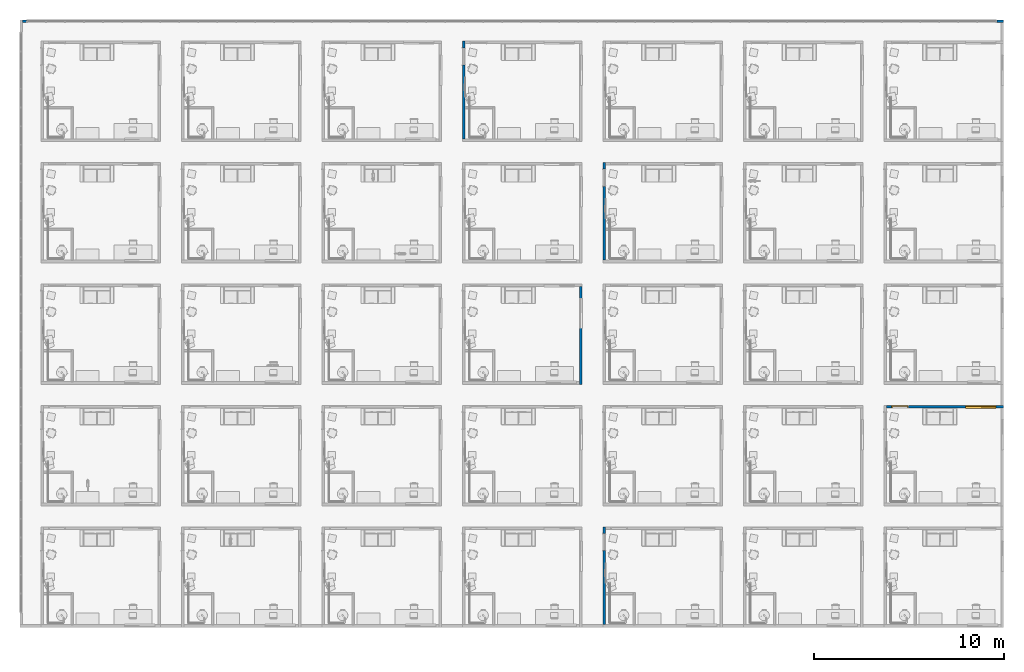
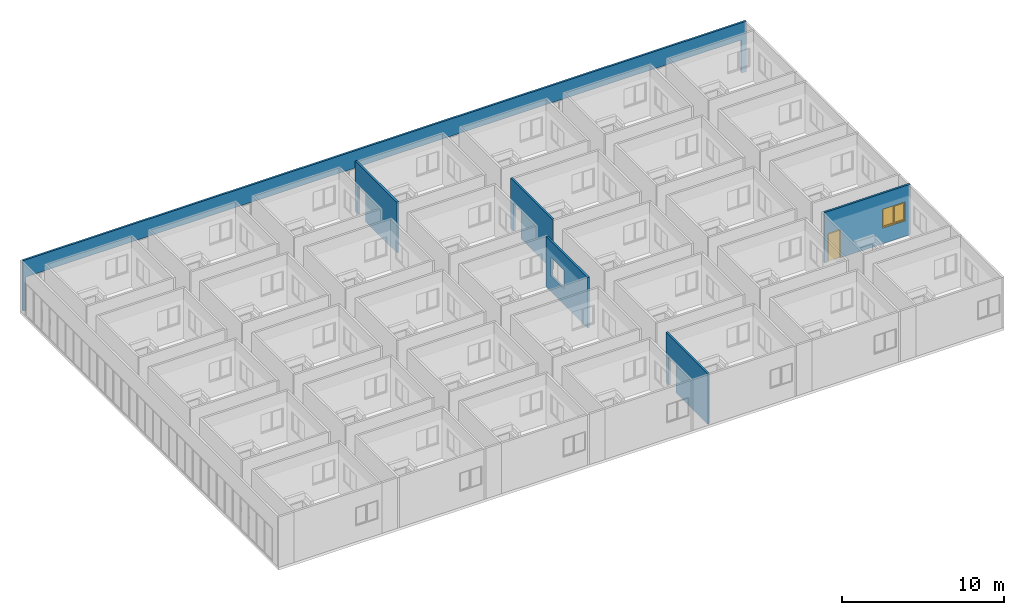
# One storey, part 12 of 71: 6 walls, 1 door, 1 window, 7 openings.
"""IFC4 building model written with IfcOpenShell, lengths in centimetres."""

from ifc_helpers import new_model, entity, si_unit, converted_unit, derived_unit, direction, frame, origin, place, context, subcontext, project, spatial, indexed_curve, outline, extrude, polygons, source, transform, mapped, material, constituent, constituent_set, type_object, type_shapes, element, fill, save


model = new_model("IFC4")

# Units and contexts
model_context = context("Model", 3, precision=0.001, world=origin(), true_north=direction((6.123233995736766e-17, 1.0)))
body_context = subcontext(model_context, "Body", "Model", "MODEL_VIEW")
ifc_project = project(units=[si_unit("LENGTHUNIT", "METRE", prefix="CENTI"), si_unit("AREAUNIT", "SQUARE_METRE"), si_unit("VOLUMEUNIT", "CUBIC_METRE"), derived_unit("THERMALTRANSMITTANCEUNIT", [(si_unit("MASSUNIT", "GRAM", prefix="KILO"), 1), (si_unit("THERMODYNAMICTEMPERATUREUNIT", "KELVIN"), -1), (si_unit("TIMEUNIT", "SECOND"), -3)]), converted_unit("PLANEANGLEUNIT", "DEGREE", entity("IfcPlaneAngleMeasure", 0.017453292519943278), si_unit("PLANEANGLEUNIT", "RADIAN"), dimensions=[0, 0, 0, 0, 0, 0, 0]), derived_unit("MASSDENSITYUNIT", [(si_unit("MASSUNIT", "GRAM", prefix="KILO"), 1), (si_unit("LENGTHUNIT", "METRE"), -3)]), derived_unit("VAPORPERMEABILITYUNIT", [(si_unit("LENGTHUNIT", "METRE"), -1), (si_unit("TIMEUNIT", "SECOND"), 1)]), derived_unit("USERDEFINED", [(si_unit("MASSUNIT", "GRAM", prefix="KILO"), 1), (si_unit("TIMEUNIT", "SECOND"), -3), (si_unit("LENGTHUNIT", "METRE"), 3), (si_unit("ELECTRICCURRENTUNIT", "AMPERE"), -2)]), derived_unit("SPECIFICHEATCAPACITYUNIT", [(si_unit("THERMODYNAMICTEMPERATUREUNIT", "KELVIN"), -1), (si_unit("LENGTHUNIT", "METRE"), 2), (si_unit("TIMEUNIT", "SECOND"), -2)]), derived_unit("THERMALCONDUCTANCEUNIT", [(si_unit("MASSUNIT", "GRAM", prefix="KILO"), 1), (si_unit("THERMODYNAMICTEMPERATUREUNIT", "KELVIN"), -1), (si_unit("TIMEUNIT", "SECOND"), -3), (si_unit("LENGTHUNIT", "METRE"), 1)]), si_unit("PRESSUREUNIT", "PASCAL"), derived_unit("MODULUSOFELASTICITYUNIT", [(si_unit("MASSUNIT", "GRAM", prefix="KILO"), 1), (si_unit("LENGTHUNIT", "METRE"), -1), (si_unit("TIMEUNIT", "SECOND"), -2)]), derived_unit("THERMALEXPANSIONCOEFFICIENTUNIT", [(si_unit("THERMODYNAMICTEMPERATUREUNIT", "KELVIN"), -1)])], contexts=[model_context])

# Site, building, storey
site_placement = place(None, origin())
site = spatial("IfcSite", under=ifc_project, at=site_placement, Name="Default", CompositionType="ELEMENT")
building_placement = place(site_placement, origin())
building = spatial("IfcBuilding", under=site, at=building_placement, Name="IDS Escape Game Building", CompositionType="ELEMENT")
storey_placement = place(building_placement, frame((0.0, 0.0, 1200.0)))
storey = spatial("IfcBuildingStorey", under=building, at=storey_placement, Name="03_Third Floor", CompositionType="ELEMENT", Elevation=1200.0)

# Wall, opening
ifc_material_1 = material(Name="ARC_FME.g2_Fg2 Masonry_00_gen_BERSnl", Category="g - klei")
wall_type = type_object("IfcWallType", Name="Basic Wall:ARC_22.10_WA_LB_SB14_gen_BERSnl", PredefinedType="STANDARD")
wall_1_placement = place(storey_placement, frame((2952.0, 527.0, 0.0), z_axis=(0.0, 0.0, 1.0), x_axis=(0.0, -1.0, 0.0)))
wall_1 = element("IfcWall", 1, at=wall_1_placement, inside=storey, type_object=wall_type, material=ifc_material_1, Name="Basic Wall:ARC_22.10_WA_LB_SB14_gen_BERSnl", ObjectType="Basic Wall:ARC_22.10_WA_LB_SB14_gen_BERSnl", PredefinedType="NOTDEFINED", context=body_context, shape_type="Tessellation", body=[
    polygons([(513.9999999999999, -6.999999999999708, 380.0), (0.0, -6.999999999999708, 380.0), (0.0, -6.999999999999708, 0.0), (35.99999999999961, -6.999999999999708, 0.0), (35.99999999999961, -6.999999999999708, 215.00000000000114), (125.99999999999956, -6.999999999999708, 215.00000000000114), (125.99999999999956, -6.999999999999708, 0.0), (513.9999999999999, -6.999999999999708, 0.0), (0.0, 7.000000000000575, 380.0), (13.999999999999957, 7.000000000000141, 380.0), (513.9999999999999, 7.000000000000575, 380.0), (513.9999999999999, 7.000000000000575, 0.0), (355.99999999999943, 7.000000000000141, 0.0), (345.99999999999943, 7.000000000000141, 0.0), (125.99999999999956, 7.000000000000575, 0.0), (125.99999999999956, 7.000000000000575, 215.00000000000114), (35.99999999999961, 7.000000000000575, 215.00000000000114), (35.99999999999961, 7.000000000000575, 0.0), (13.999999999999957, 7.000000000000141, 0.0), (0.0, 7.000000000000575, 0.0)], [[[1, 2, 3, 4, 5, 6, 7, 8]], [[9, 10, 11, 12, 13, 14, 15, 16, 17, 18, 19, 20]], [[3, 20, 19, 18, 4]], [[2, 1, 11, 10, 9]], [[17, 5, 4, 18]], [[6, 16, 15, 7]], [[5, 17, 16, 6]], [[3, 2, 9, 20]], [[1, 8, 12, 11]], [[12, 8, 7, 15, 14, 13]]], closed=True),
])
opening_1_placement = place(wall_1_placement, frame((527.0, -2952.0, 0.0), z_axis=(0.0, 0.0, 1.0), x_axis=(0.0, 1.0, 0.0)))
element("IfcOpeningElement", 2, at=opening_1_placement, cuts=wall_1, Name="Basic Wall:ARC_22.10_WA_LB_SB14_gen_BERSnl", PredefinedType="OPENING", context=body_context, shape_type="SweptSolid", body=[
    extrude(outline(indexed_curve([(-137.49999999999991, -45.0), (137.49999999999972, -45.0), (137.49999999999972, 44.99999999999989), (-137.49999999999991, 44.99999999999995), (-137.49999999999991, -45.0)], self_intersect=False)), frame((2862.0, 446.0, 77.50000000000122), z_axis=(1.0, 0.0, 0.0), x_axis=(0.0, 0.0, 1.0)), (0.0, 0.0, 1.0), 166.00000000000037),
])

# Wall, openings, door, window
wall_2_placement = place(storey_placement, frame((5049.0, 1158.0, 0.0), z_axis=(0.0, 0.0, 1.0), x_axis=(-1.0, 0.0, 0.0)))
wall_2 = element("IfcWall", 3, at=wall_2_placement, inside=storey, type_object=wall_type, material=ifc_material_1, Name="Basic Wall:ARC_22.10_WA_LB_SB14_gen_BERSnl", ObjectType="Basic Wall:ARC_22.10_WA_LB_SB14_gen_BERSnl", PredefinedType="NOTDEFINED", context=body_context, shape_type="Tessellation", body=[
    polygons([(38.999999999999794, -7.000000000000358, 120.00000000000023), (38.999999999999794, -7.000000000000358, 260.0000000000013), (198.9999999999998, -7.000000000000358, 260.0000000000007), (198.9999999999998, -7.000000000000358, 120.00000000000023), (194.00000000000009, -7.000000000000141, 120.0), (43.999999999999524, -7.000000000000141, 120.0), (613.9999999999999, -7.000000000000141, 380.0), (14.000000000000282, -7.000000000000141, 380.0), (0.0, -7.000000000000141, 380.0), (0.0, -7.000000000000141, 0.0), (14.000000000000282, -7.000000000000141, 0.0), (499.00000000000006, -7.000000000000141, 0.0), (499.00000000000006, -7.000000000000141, 215.00000000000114), (589.0000000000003, -7.000000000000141, 215.00000000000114), (589.0000000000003, -7.000000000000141, 0.0), (613.9999999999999, -7.000000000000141, 0.0), (0.0, 6.9999999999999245, 380.0), (14.000000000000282, 6.9999999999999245, 380.0), (613.9999999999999, 6.9999999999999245, 380.0), (613.9999999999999, 6.9999999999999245, 0.0), (589.0000000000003, 6.9999999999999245, 0.0), (589.0000000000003, 6.9999999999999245, 215.00000000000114), (499.00000000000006, 6.9999999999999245, 215.00000000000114), (499.00000000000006, 6.9999999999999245, 0.0), (14.000000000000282, 6.9999999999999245, 0.0), (0.0, 6.9999999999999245, 0.0), (38.999999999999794, 6.9999999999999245, 260.00000000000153), (38.999999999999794, 6.9999999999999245, 120.00000000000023), (198.9999999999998, 6.9999999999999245, 120.00000000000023), (198.9999999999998, 6.9999999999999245, 260.0000000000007)], [[[7, 8, 9, 10, 11, 12, 13, 14, 15, 16], [1, 2, 3, 4, 5, 6]], [[17, 18, 19, 20, 21, 22, 23, 24, 25, 26], [27, 28, 29, 30]], [[12, 11, 10, 26, 25, 24]], [[9, 8, 7, 19, 18, 17]], [[14, 22, 21, 15]], [[23, 13, 12, 24]], [[22, 14, 13, 23]], [[1, 28, 27, 2]], [[3, 30, 29, 4]], [[30, 3, 2, 27]], [[28, 1, 6, 5, 4, 29]], [[10, 9, 17, 26]], [[7, 16, 20, 19]], [[16, 15, 21, 20]]], closed=True),
])
opening_2_placement = place(wall_2_placement, frame((5049.0, 1158.0, 0.0), z_axis=(0.0, 0.0, 1.0), x_axis=(-1.0, 0.0, 0.0)))
opening_2 = element("IfcOpeningElement", 4, at=opening_2_placement, cuts=wall_2, Name="Basic Wall:ARC_22.10_WA_LB_SB14_gen_BERSnl", PredefinedType="OPENING", context=body_context, shape_type="SweptSolid", body=[
    extrude(outline(indexed_curve([(-45.00000000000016, -137.49999999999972), (45.00000000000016, -137.49999999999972), (45.00000000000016, 137.49999999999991), (-45.00000000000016, 137.49999999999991), (-45.00000000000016, -137.49999999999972)], self_intersect=False)), frame((4505.0, 1248.0, 77.50000000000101), z_axis=(0.0, -1.0, 0.0), x_axis=(1.0, 0.0, 0.0)), (0.0, 0.0, 1.0), 165.99999999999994),
])
opening_3_placement = place(wall_2_placement, frame((5049.0, 1158.0, 120.0), z_axis=(0.0, 0.0, 1.0), x_axis=(-1.0, 0.0, 0.0)))
opening_3 = element("IfcOpeningElement", 5, at=opening_3_placement, cuts=wall_2, Name="Basic Wall:ARC_22.10_WA_LB_SB14_gen_BERSnl", PredefinedType="OPENING", context=body_context, shape_type="Tessellation", body=[
    polygons([(5010.000000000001, 1165.0, 2.2737367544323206e-13), (5010.000000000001, 1165.0, -1.0), (5010.000000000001, 1170.0, -1.0), (5010.000000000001, 1170.0, 2.2737367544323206e-13), (4850.000000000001, 1165.0, 2.2737367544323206e-13), (4850.000000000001, 1170.0, 2.2737367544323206e-13), (4850.000000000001, 1170.0, -1.0), (4850.000000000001, 1165.0, -1.0), (5005.000000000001, 1165.0000000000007, 0.0), (4855.000000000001, 1165.0000000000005, 0.0), (4855.000000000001, 1170.0, 2.2737367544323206e-13), (4855.000000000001, 1170.0000000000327, 135.0), (5005.000000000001, 1170.0000000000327, 135.0), (5005.000000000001, 1170.0, 2.2737367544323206e-13), (5010.000000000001, 1145.9631748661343, 2.2737367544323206e-13), (5010.000000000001, 1165.0000000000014, 2.2737367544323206e-13), (5010.000000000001, 1165.0000000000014, 140.00000000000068), (5010.000000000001, 1145.9631748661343, 140.00000000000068), (4850.000000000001, 1145.9631748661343, 140.0), (4850.000000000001, 1165.0000000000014, 140.0), (4850.000000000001, 1165.0000000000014, 2.2737367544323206e-13), (4850.000000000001, 1145.9631748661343, 2.2737367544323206e-13), (5005.000000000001, 1165.0000000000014, 135.0), (4855.000000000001, 1165.0000000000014, 135.0)], [[[1, 2, 3, 4]], [[5, 6, 7, 8]], [[1, 9, 10, 5, 8, 2]], [[2, 8, 7, 3]], [[3, 7, 6, 11, 12, 13, 14, 4]], [[4, 14, 9, 1]], [[15, 16, 17, 18]], [[19, 20, 21, 22]], [[18, 17, 20, 19]], [[18, 19, 22, 15]], [[17, 16, 9, 23, 24, 10, 21, 20]], [[22, 21, 10, 9, 16, 15]], [[11, 10, 24, 12]], [[13, 23, 9, 14]], [[12, 24, 23, 13]], [[5, 10, 11, 6]]], closed=True),
])
ifc_material_2 = material(Name="ARC_FME.i3_wood_00_gen_BERSnl", Category="i - hout")
door_type = type_object("IfcDoorType", Name="ARC_32.30_DO_WB_binnendeur enkel draaiend met void_gen_BERSnl:hout_blokkader_830x2115_EI00", OperationType="SINGLE_SWING_LEFT", PredefinedType="DOOR", material=ifc_material_2)
shared_shape_1 = source(origin(), body_context, "Body", "Tessellation", [
    extrude(outline(indexed_curve([(-3.7499999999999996, -41.49999999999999), (3.7499999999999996, -41.49999999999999), (3.7499999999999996, 41.49999999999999), (-3.7499999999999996, 41.49999999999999), (-3.7499999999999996, -41.49999999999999)], self_intersect=False)), frame((45.0, 107.25000000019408, 60.0), z_axis=(0.0, 0.0, 1.0), x_axis=(0.0, -1.0, 0.0)), (0.0, 0.0, 1.0), 211.50000000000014),
    polygons([(1.000000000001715, 111.00000000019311, 59.999999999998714), (3.5000000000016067, 111.00000000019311, 59.999999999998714), (3.500000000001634, 103.50000000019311, 59.999999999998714), (5.000000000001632, 103.50000000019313, 59.999999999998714), (5.000000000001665, 96.00000000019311, 59.999999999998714), (1.0000000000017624, 96.0000000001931, 59.999999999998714), (1.0000000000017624, 96.0000000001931, 273.99999999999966), (1.000000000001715, 111.0000000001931, 273.99999999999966), (5.000000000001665, 96.00000000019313, 269.9999999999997), (85.00000000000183, 96.00000000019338, 269.9999999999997), (85.00000000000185, 96.00000000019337, 59.9999999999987), (89.00000000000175, 96.00000000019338, 59.9999999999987), (89.00000000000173, 96.0000000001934, 273.99999999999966), (5.000000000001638, 103.50000000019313, 269.9999999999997), (3.500000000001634, 103.50000000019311, 271.4999999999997), (86.50000000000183, 103.50000000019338, 271.4999999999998), (86.50000000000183, 103.50000000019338, 59.9999999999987), (85.00000000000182, 103.50000000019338, 59.9999999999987), (85.00000000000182, 103.50000000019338, 269.9999999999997), (3.500000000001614, 111.00000000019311, 271.4999999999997), (89.00000000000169, 111.0000000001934, 273.99999999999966), (89.00000000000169, 111.0000000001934, 59.9999999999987), (86.50000000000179, 111.00000000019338, 59.9999999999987), (86.5000000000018, 111.00000000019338, 271.4999999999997)], [[[1, 2, 3, 4, 5, 6]], [[6, 7, 8, 1]], [[5, 9, 10, 11, 12, 13, 7, 6]], [[4, 14, 9, 5]], [[3, 15, 16, 17, 18, 19, 14, 4]], [[2, 20, 15, 3]], [[1, 8, 21, 22, 23, 24, 20, 2]], [[13, 12, 22, 21]], [[22, 12, 11, 18, 17, 23]], [[19, 18, 11, 10]], [[24, 23, 17, 16]], [[7, 13, 21, 8]], [[14, 19, 10, 9]], [[20, 24, 16, 15]]], closed=True),
])
type_shapes(door_type, [shared_shape_1])
door_placement = place(opening_2_placement, frame((4460.0, 1054.0, -60.0)))
door = element("IfcDoor", 6, at=door_placement, inside=storey, type_object=door_type, material=ifc_material_2, Name="ARC_32.30_DO_WB_binnendeur enkel draaiend met void_gen_BERSnl:hout_blokkader_830x2115_EI00", ObjectType="ARC_32.30_DO_WB_binnendeur enkel draaiend met void_gen_BERSnl:hout_blokkader_830x2115_EI00", OverallHeight=274.99999999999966, OverallWidth=90.00000000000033, PredefinedType="DOOR", context=body_context, shape_type="MappedRepresentation", body=[
    mapped(shared_shape_1, transform((0.0, 0.0, 0.0), scale=1.0)),
])
fill(opening_2, door)
ifc_material_3 = material(Name="<Unnamed>")
ifc_constituent_1 = constituent(ifc_material_3, Name="<Unnamed>", fraction=0.0)
ifc_material_4 = material(Name="ARC_FME.o1_glass_00_gen_BERSnl", Category="o - glas")
ifc_constituent_2 = constituent(ifc_material_4, Name="ARC_FME.o1_glass_00_gen_BERSnl", Category="o - glas", fraction=1.0)
ifc_constituent_set_1 = constituent_set(constituents=[ifc_constituent_1, ifc_constituent_2])
ifc_constituent_3 = constituent(ifc_material_3, Name="BE Tablet", fraction=0.0)
ifc_constituent_4 = constituent(ifc_material_3, Name="Frame/Mullion", fraction=0.0)
ifc_constituent_5 = constituent(ifc_material_4, Name="Glass", Category="o - glas", fraction=1.0)
ifc_constituent_set_2 = constituent_set(constituents=[ifc_constituent_3, ifc_constituent_4, ifc_constituent_5])
window_type = type_object("IfcWindowType", Name="ARC_31_WI_WB_Dubbel Raam-Recht-Vast en Draaiend_gen_BERSnl:Links-Draaiend / Rechts-Draaiend", PartitioningType="NOTDEFINED", PredefinedType="WINDOW", material=ifc_constituent_set_2)
shared_shape_2 = source(origin(), body_context, "Body", "Tessellation", [
    extrude(outline(indexed_curve([(-80.00000000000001, -4.999999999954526), (80.00000000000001, -4.999999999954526), (80.00000000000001, 4.999999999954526), (-80.00000000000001, 4.999999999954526), (-80.00000000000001, -4.999999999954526)], self_intersect=False)), frame((80.0, 7.036825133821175, 1.0), z_axis=(0.0, 0.0, 1.0), x_axis=(-1.0, 0.0, 0.0)), (0.0, 0.0, 1.0), 2.000000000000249),
    extrude(outline(indexed_curve([(-2.9999999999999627, -3.000000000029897), (-7.656209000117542e-14, -3.000000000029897), (-7.064016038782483e-14, 5.979964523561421e-11), (3.0000000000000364, 5.978991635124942e-11), (3.0000000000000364, 2.9999999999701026), (-2.9999999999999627, 2.9999999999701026), (-2.9999999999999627, -3.000000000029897)], self_intersect=False)), frame((80.0, 15.03682513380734, 7.0)), (0.0, 0.0, 1.0), 128.00000000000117),
    extrude(outline(indexed_curve([(-35.499999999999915, -1.2000000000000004), (35.499999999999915, -1.2000000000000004), (35.49999999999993, 1.2), (-35.499999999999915, 1.2), (-35.499999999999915, -1.2000000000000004)], self_intersect=False)), frame((41.50000000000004, 15.036825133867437, 7.0), z_axis=(0.0, 0.0, 1.0), x_axis=(-1.0, 0.0, 0.0)), (0.0, 0.0, 1.0), 128.000000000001),
    extrude(outline(indexed_curve([(-67.00000000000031, -38.500000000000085), (67.00000000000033, -38.5000000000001), (67.00000000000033, 38.50000000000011), (-67.00000000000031, 38.50000000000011), (-67.00000000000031, -38.500000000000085)], self_intersect=False), holes=[indexed_curve([(61.00000000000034, -32.50000000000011), (-61.00000000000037, -32.500000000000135), (-61.00000000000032, 32.50000000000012), (61.00000000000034, 32.50000000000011), (61.00000000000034, -32.50000000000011)], self_intersect=False)]), frame((118.5, 9.03682513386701, 71.0), z_axis=(0.0, 1.0, 0.0), x_axis=(0.0, 0.0, -1.0)), (0.0, 0.0, 1.0), 6.0),
    extrude(outline(indexed_curve([(-32.500000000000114, -1.2000000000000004), (32.500000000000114, -1.2000000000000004), (32.500000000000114, 1.2000000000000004), (-32.500000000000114, 1.2000000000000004), (-32.500000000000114, -1.2000000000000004)], self_intersect=False)), frame((118.5, 12.036825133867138, 10.0), z_axis=(0.0, 0.0, 1.0), x_axis=(-1.0, 0.0, 0.0)), (0.0, 0.0, 1.0), 122.00000000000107),
    polygons([(160.00000000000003, 18.03682513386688, 141.00000000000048), (160.00000000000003, 18.03682513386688, 1.0000000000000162), (4.0607517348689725e-14, 18.036825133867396, 1.0000000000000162), (4.0607517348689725e-14, 18.036825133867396, 141.00000000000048), (6.000000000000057, 18.03682513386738, 135.00000000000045), (6.000000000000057, 18.03682513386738, 7.000000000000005), (76.99999999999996, 18.03682513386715, 7.000000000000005), (154.00000000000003, 18.0368251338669, 7.000000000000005), (154.00000000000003, 18.0368251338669, 135.00000000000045), (76.99999999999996, 18.03682513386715, 135.00000000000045), (160.0, 12.03682513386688, 141.00000000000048), (160.0, 12.03682513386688, 1.0000000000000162), (2.7071678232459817e-14, 12.036825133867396, 1.0000000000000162), (2.7071678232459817e-14, 12.036825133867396, 141.00000000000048), (6.000000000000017, 12.036825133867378, 135.00000000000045), (6.000000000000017, 12.036825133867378, 7.000000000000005), (76.99999999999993, 12.036825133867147, 7.000000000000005), (79.99999999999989, 12.036825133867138, 7.000000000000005), (79.9999999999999, 15.036825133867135, 7.000000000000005), (154.00000000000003, 15.0368251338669, 7.000000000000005), (154.00000000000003, 15.036825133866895, 135.00000000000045), (76.99999999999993, 12.036825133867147, 135.00000000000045), (79.99999999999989, 12.036825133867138, 135.00000000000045), (79.99999999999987, 12.036825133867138, 138.00000000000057), (157.00000000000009, 12.036825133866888, 138.00000000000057), (157.00000000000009, 12.036825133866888, 3.9999999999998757), (79.99999999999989, 12.036825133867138, 3.9999999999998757), (157.0000000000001, 15.036825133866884, 3.9999999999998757), (157.0000000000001, 15.036825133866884, 138.00000000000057), (79.99999999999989, 15.036825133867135, 3.9999999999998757), (79.99999999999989, 15.036825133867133, 138.00000000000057), (79.99999999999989, 15.036825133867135, 135.00000000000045)], [[[1, 2, 3, 4], [5, 6, 7, 8, 9, 10]], [[2, 1, 11, 12]], [[3, 2, 12, 13]], [[4, 3, 13, 14]], [[6, 5, 15, 16]], [[6, 16, 17, 18, 19, 20, 8, 7]], [[9, 8, 20, 21]], [[11, 14, 13, 12], [16, 15, 22, 23, 24, 25, 26, 27, 18, 17]], [[28, 26, 25, 29]], [[30, 27, 26, 28]], [[31, 24, 23, 32]], [[30, 28, 29, 31, 32, 21, 20, 19]], [[1, 4, 14, 11]], [[15, 5, 10, 9, 21, 32, 23, 22]], [[24, 31, 29, 25]], [[27, 30, 19, 18]]], closed=True),
])
type_shapes(window_type, [shared_shape_2])
window_placement = place(opening_3_placement, frame((4850.0, 1145.9631748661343, -1.0)))
window = element("IfcWindow", 7, at=window_placement, inside=storey, type_object=window_type, material=ifc_constituent_set_1, Name="ARC_31_WI_WB_Dubbel Raam-Recht-Vast en Draaiend_gen_BERSnl:Links-Draaiend / Rechts-Draaiend", ObjectType="ARC_31_WI_WB_Dubbel Raam-Recht-Vast en Draaiend_gen_BERSnl:Links-Draaiend / Rechts-Draaiend", OverallHeight=140.00000000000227, OverallWidth=160.0000000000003, PartitioningType="NOTDEFINED", PredefinedType="WINDOW", context=body_context, shape_type="MappedRepresentation", body=[
    mapped(shared_shape_2, transform((0.0, 0.0, 0.0), scale=1.0)),
])
fill(opening_3, window)

# Wall, opening
wall_3_placement = place(storey_placement, frame((2828.0, 1275.0, 0.0), z_axis=(0.0, 0.0, 1.0), x_axis=(0.0, 1.0, 0.0)))
wall_3 = element("IfcWall", 8, at=wall_3_placement, inside=storey, type_object=wall_type, material=ifc_material_1, Name="Basic Wall:ARC_22.10_WA_LB_SB14_gen_BERSnl", ObjectType="Basic Wall:ARC_22.10_WA_LB_SB14_gen_BERSnl", PredefinedType="NOTDEFINED", context=body_context, shape_type="Tessellation", body=[
    polygons([(0.0, -6.999999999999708, 0.0), (514.0000000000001, -6.999999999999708, 0.0), (514.0000000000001, -6.999999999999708, 380.0), (0.0, -6.999999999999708, 380.0), (453.9999999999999, -6.999999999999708, 260.00000000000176), (454.00000000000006, -6.999999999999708, 120.00000000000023), (294.00000000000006, -6.999999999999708, 120.00000000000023), (294.00000000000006, -6.999999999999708, 260.00000000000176), (454.00000000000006, 7.000000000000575, 120.00000000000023), (454.00000000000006, 7.000000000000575, 260.0), (294.00000000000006, 7.000000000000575, 260.0), (294.00000000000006, 7.000000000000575, 120.00000000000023), (0.0, 7.000000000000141, 0.0), (0.0, 7.000000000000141, 380.0), (14.000000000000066, 7.000000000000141, 380.0), (514.0000000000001, 7.000000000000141, 380.0), (514.0000000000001, 7.000000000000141, 0.0), (14.000000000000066, 7.000000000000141, 0.0)], [[[1, 2, 3, 4], [5, 6, 7, 8]], [[13, 14, 15, 16, 17, 18], [9, 10, 11, 12]], [[2, 1, 13, 18, 17]], [[4, 3, 16, 15, 14]], [[10, 9, 6, 5]], [[7, 12, 11, 8]], [[10, 5, 8, 11]], [[12, 7, 6, 9]], [[1, 4, 14, 13]], [[3, 2, 17, 16]]], closed=True),
])
opening_4_placement = place(wall_3_placement, frame((-1275.0, 2828.0, 120.0), z_axis=(0.0, 0.0, 1.0), x_axis=(0.0, -1.0, 0.0)))
element("IfcOpeningElement", 9, at=opening_4_placement, cuts=wall_3, Name="Basic Wall:ARC_22.10_WA_LB_SB14_gen_BERSnl", PredefinedType="OPENING", context=body_context, shape_type="Tessellation", body=[
    polygons([(2820.999999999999, 1729.0000000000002, 2.2737367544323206e-13), (2820.999999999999, 1729.0000000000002, -1.0), (2815.999999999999, 1729.0000000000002, -1.0), (2815.999999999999, 1729.0000000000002, 2.2737367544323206e-13), (2820.999999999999, 1569.0000000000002, 2.2737367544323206e-13), (2815.999999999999, 1569.0000000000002, 2.2737367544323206e-13), (2815.999999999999, 1569.0000000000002, -1.0), (2820.999999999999, 1569.0000000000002, -1.0), (2820.9999999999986, 1724.0000000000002, 0.0), (2820.9999999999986, 1574.0000000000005, 0.0), (2815.9999999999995, 1574.0000000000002, 2.2737367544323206e-13), (2815.999999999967, 1574.0000000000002, 135.0), (2815.999999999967, 1724.0000000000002, 135.0), (2815.9999999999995, 1724.0000000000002, 2.2737367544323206e-13), (2840.036825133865, 1729.0000000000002, 2.2737367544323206e-13), (2820.999999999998, 1729.0000000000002, 2.2737367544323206e-13), (2820.999999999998, 1729.0000000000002, 140.00000000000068), (2840.036825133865, 1729.0000000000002, 140.00000000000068), (2840.036825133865, 1569.0000000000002, 140.0), (2820.999999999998, 1569.0000000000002, 140.0), (2820.9999999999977, 1569.0000000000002, 2.2737367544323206e-13), (2840.036825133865, 1569.0000000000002, 2.2737367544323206e-13), (2820.999999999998, 1724.0000000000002, 135.0), (2820.999999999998, 1574.0000000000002, 135.0)], [[[1, 2, 3, 4]], [[5, 6, 7, 8]], [[1, 9, 10, 5, 8, 2]], [[2, 8, 7, 3]], [[3, 7, 6, 11, 12, 13, 14, 4]], [[4, 14, 9, 1]], [[15, 16, 17, 18]], [[19, 20, 21, 22]], [[18, 17, 20, 19]], [[18, 19, 22, 15]], [[17, 16, 9, 23, 24, 10, 21, 20]], [[22, 21, 10, 9, 16, 15]], [[11, 10, 24, 12]], [[13, 23, 9, 14]], [[12, 24, 23, 13]], [[5, 10, 11, 6]]], closed=True),
])

wall_4_placement = place(storey_placement, frame((2952.0, 2441.0, 0.0), z_axis=(0.0, 0.0, 1.0), x_axis=(0.0, -1.0, 0.0)))
wall_4 = element("IfcWall", 10, at=wall_4_placement, inside=storey, type_object=wall_type, material=ifc_material_1, Name="Basic Wall:ARC_22.10_WA_LB_SB14_gen_BERSnl", ObjectType="Basic Wall:ARC_22.10_WA_LB_SB14_gen_BERSnl", PredefinedType="NOTDEFINED", context=body_context, shape_type="Tessellation", body=[
    polygons([(513.9999999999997, -6.999999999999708, 380.0), (0.0, -6.999999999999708, 380.0), (0.0, -6.999999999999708, 0.0), (35.999999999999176, -6.999999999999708, 0.0), (35.999999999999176, -6.999999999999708, 215.00000000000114), (125.99999999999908, -6.999999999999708, 215.00000000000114), (125.99999999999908, -6.999999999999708, 0.0), (513.9999999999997, -6.999999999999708, 0.0), (0.0, 7.000000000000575, 380.0), (13.999999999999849, 7.000000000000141, 380.0), (513.9999999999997, 7.000000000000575, 380.0), (513.9999999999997, 7.000000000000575, 0.0), (355.9999999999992, 7.000000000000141, 0.0), (345.9999999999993, 7.000000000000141, 0.0), (125.99999999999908, 7.000000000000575, 0.0), (125.99999999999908, 7.000000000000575, 215.00000000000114), (35.999999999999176, 7.000000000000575, 215.00000000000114), (35.999999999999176, 7.000000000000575, 0.0), (13.999999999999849, 7.000000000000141, 0.0), (0.0, 7.000000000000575, 0.0)], [[[1, 2, 3, 4, 5, 6, 7, 8]], [[9, 10, 11, 12, 13, 14, 15, 16, 17, 18, 19, 20]], [[3, 20, 19, 18, 4]], [[2, 1, 11, 10, 9]], [[17, 5, 4, 18]], [[6, 16, 15, 7]], [[5, 17, 16, 6]], [[3, 2, 9, 20]], [[1, 8, 12, 11]], [[12, 8, 7, 15, 14, 13]]], closed=True),
])
opening_5_placement = place(wall_4_placement, frame((2441.0, -2952.0, 0.0), z_axis=(0.0, 0.0, 1.0), x_axis=(0.0, 1.0, 0.0)))
element("IfcOpeningElement", 11, at=opening_5_placement, cuts=wall_4, Name="Basic Wall:ARC_22.10_WA_LB_SB14_gen_BERSnl", PredefinedType="OPENING", context=body_context, shape_type="SweptSolid", body=[
    extrude(outline(indexed_curve([(-137.49999999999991, -45.00000000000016), (137.49999999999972, -45.00000000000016), (137.49999999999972, 44.99999999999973), (-137.49999999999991, 44.99999999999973), (-137.49999999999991, -45.00000000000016)], self_intersect=False)), frame((2862.0, 2360.0, 77.50000000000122), z_axis=(1.0, 0.0, 0.0), x_axis=(0.0, 0.0, 1.0)), (0.0, 0.0, 1.0), 166.00000000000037),
])

wall_5_placement = place(storey_placement, frame((2214.0, 3079.0, 0.0), z_axis=(0.0, 0.0, 1.0), x_axis=(0.0, -1.0, 0.0)))
wall_5 = element("IfcWall", 12, at=wall_5_placement, inside=storey, type_object=wall_type, material=ifc_material_1, Name="Basic Wall:ARC_22.10_WA_LB_SB14_gen_BERSnl", ObjectType="Basic Wall:ARC_22.10_WA_LB_SB14_gen_BERSnl", PredefinedType="NOTDEFINED", context=body_context, shape_type="Tessellation", body=[
    polygons([(513.9999999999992, -6.999999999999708, 380.0), (0.0, -6.999999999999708, 380.0), (0.0, -6.999999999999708, 0.0), (35.999999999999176, -6.999999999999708, 0.0), (35.999999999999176, -6.999999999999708, 215.00000000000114), (125.99999999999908, -6.999999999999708, 215.00000000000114), (125.99999999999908, -6.999999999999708, 0.0), (513.9999999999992, -6.999999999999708, 0.0), (0.0, 7.000000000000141, 380.0), (13.999999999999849, 7.000000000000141, 380.0), (513.9999999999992, 7.000000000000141, 380.0), (513.9999999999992, 7.000000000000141, 0.0), (355.9999999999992, 7.000000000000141, 0.0), (345.9999999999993, 7.000000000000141, 0.0), (125.99999999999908, 7.000000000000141, 0.0), (125.99999999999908, 7.000000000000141, 215.00000000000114), (35.999999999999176, 7.000000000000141, 215.00000000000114), (35.999999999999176, 7.000000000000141, 0.0), (13.999999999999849, 7.000000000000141, 0.0), (0.0, 7.000000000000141, 0.0)], [[[1, 2, 3, 4, 5, 6, 7, 8]], [[9, 10, 11, 12, 13, 14, 15, 16, 17, 18, 19, 20]], [[3, 20, 19, 18, 4]], [[2, 1, 11, 10, 9]], [[17, 5, 4, 18]], [[6, 16, 15, 7]], [[5, 17, 16, 6]], [[3, 2, 9, 20]], [[1, 8, 12, 11]], [[12, 8, 7, 15, 14, 13]]], closed=True),
])
opening_6_placement = place(wall_5_placement, frame((3079.0, -2214.0, 0.0), z_axis=(0.0, 0.0, 1.0), x_axis=(0.0, 1.0, 0.0)))
element("IfcOpeningElement", 13, at=opening_6_placement, cuts=wall_5, Name="Basic Wall:ARC_22.10_WA_LB_SB14_gen_BERSnl", PredefinedType="OPENING", context=body_context, shape_type="SweptSolid", body=[
    extrude(outline(indexed_curve([(-137.49999999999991, -44.99999999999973), (137.49999999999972, -44.99999999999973), (137.49999999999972, 45.00000000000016), (-137.49999999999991, 45.00000000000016), (-137.49999999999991, -44.99999999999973)], self_intersect=False)), frame((2124.0, 2998.0, 77.50000000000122), z_axis=(1.0, 0.0, 0.0), x_axis=(0.0, 0.0, 1.0)), (0.0, 0.0, 1.0), 166.00000000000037),
])

wall_6_placement = place(storey_placement, frame((-103.0, 3182.0, 0.0)))
wall_6 = element("IfcWall", 14, at=wall_6_placement, inside=storey, type_object=wall_type, material=ifc_material_1, Name="Basic Wall:ARC_22.10_WA_LB_SB14_gen_BERSnl", ObjectType="Basic Wall:ARC_22.10_WA_LB_SB14_gen_BERSnl", PredefinedType="NOTDEFINED", context=body_context, shape_type="Tessellation", body=[
    polygons([(5151.9999999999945, -6.999999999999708, 380.0), (5137.9999999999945, -6.999999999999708, 380.0), (2.705124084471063e-13, -6.999999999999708, 380.0), (1.333146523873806e-14, -6.999999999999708, 0.0), (20.000000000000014, -6.999999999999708, 0.0), (20.000000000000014, -6.999999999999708, 250.0000000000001), (5118.0, -6.999999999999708, 250.0000000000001), (5118.0, -6.999999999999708, 0.0), (5137.9999999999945, -6.999999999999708, 0.0), (5151.9999999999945, -6.999999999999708, 0.0), (7.583842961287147e-14, 7.000000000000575, 380.0), (5151.9999999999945, 7.000000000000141, 380.0), (5151.9999999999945, 7.000000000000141, 0.0), (5118.0, 7.000000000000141, 0.0), (5118.0, 7.000000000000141, 250.0000000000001), (20.00000000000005, 7.000000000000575, 250.0000000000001), (19.999999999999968, 7.000000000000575, 0.0), (2.2473265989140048e-13, 7.000000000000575, 0.0)], [[[1, 2, 3, 4, 5, 6, 7, 8, 9, 10]], [[11, 12, 13, 14, 15, 16, 17, 18]], [[4, 18, 17, 5]], [[3, 2, 1, 12, 11]], [[4, 3, 11, 18]], [[1, 10, 13, 12]], [[16, 6, 5, 17]], [[6, 16, 15, 7]], [[7, 15, 14, 8]], [[13, 10, 9, 8, 14]]], closed=True),
])
opening_7_placement = place(wall_6_placement, origin())
element("IfcOpeningElement", 15, at=opening_7_placement, cuts=wall_6, Name="Basic Wall:ARC_22.10_WA_LB_SB14_gen_BERSnl", PredefinedType="OPENING", context=body_context, shape_type="SweptSolid", body=[
    extrude(outline(indexed_curve([(-124.99999999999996, -2549.0), (124.99999999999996, -2549.0), (124.99999999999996, 2549.0), (-124.99999999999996, 2549.0), (-124.99999999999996, -2549.0)], self_intersect=False)), frame((2569.0, -22.239999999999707, 125.0), z_axis=(0.0, 1.0, 0.0), x_axis=(0.0, 0.0, 1.0)), (0.0, 0.0, 1.0), 44.47999999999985),
])

save(model, "model.ifc")
